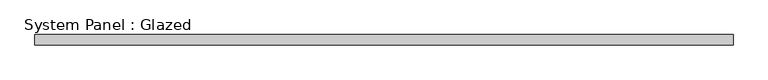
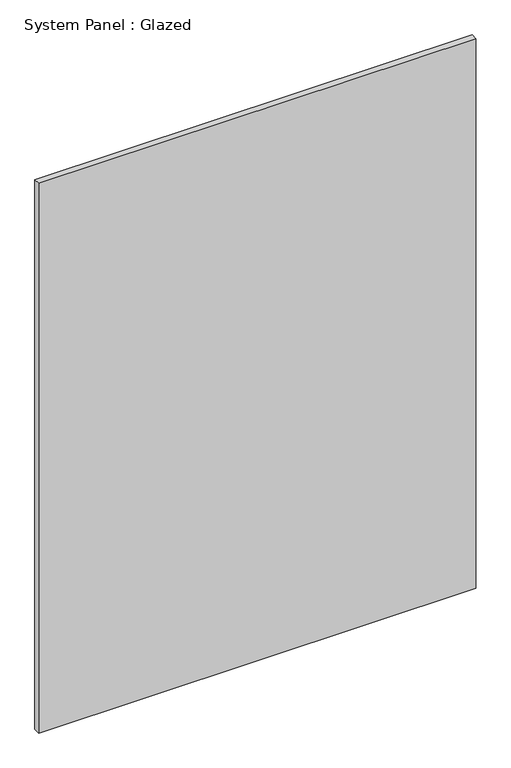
"""IFC4 building model written with IfcOpenShell, lengths in millimetres: plate geometry, System Panel : Glazed."""

from ifc_helpers import new_model, si_unit, origin, origin_with_axes, place, context, project, spatial, polyline, outline, extrude, source, transform, mapped, element, save


def system_panel_glazed_8a131d30(model_context):
    return source(origin(), model_context, "Body", "SweptSolid", [
        extrude(outline(polyline([(868.2793088, 19.05), (-868.2793088, 19.05), (-868.2793088, 44.45), (868.2793088, 44.45), (868.2793088, 19.05)])), origin_with_axes(), (0.0, 0.0, 1.0), 2307.6414857),
    ])


if __name__ == "__main__":
    model = new_model("IFC4")
    model_context = context("Model", 3, world=origin())
    ifc_project = project(units=[si_unit("LENGTHUNIT", "METRE", prefix="MILLI")], contexts=[model_context])
    site = spatial("IfcSite", under=ifc_project)
    building = spatial("IfcBuilding", under=site)
    placement = place(None, origin())
    system_panel_glazed_shape = system_panel_glazed_8a131d30(model_context)
    element("IfcPlate", 1, ObjectType="System Panel : Glazed", at=placement, inside=building, context=model_context, shape_type="MappedRepresentation", body=[
        mapped(system_panel_glazed_shape, transform((0.0, 0.0, 0.0), x_axis=(1.0, 0.0, 0.0), y_axis=(0.0, 1.0, 0.0), z_axis=(0.0, 0.0, 1.0))),
    ])
    save(model, "model.ifc")
